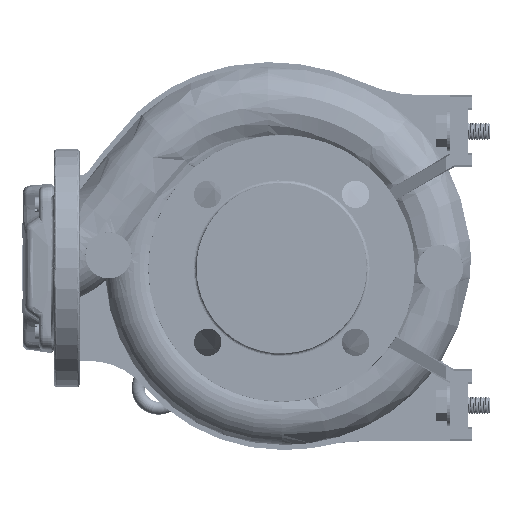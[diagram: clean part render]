
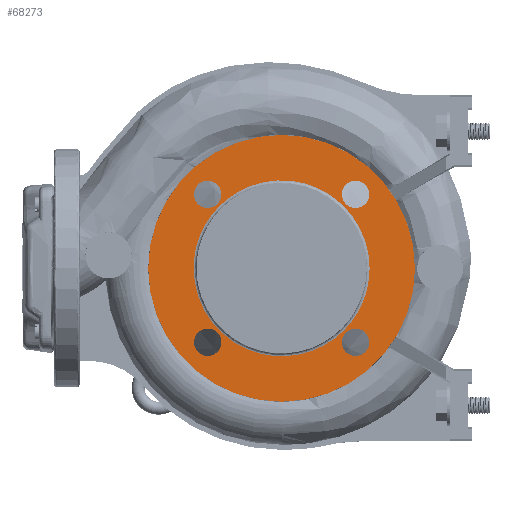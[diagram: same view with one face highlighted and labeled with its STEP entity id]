
A CAD part, left-side view. The second image highlights one B-rep face of the part: STEP entity #68273.
In plain terms, the highlighted planar face has unit normal (-1, 0, 0).
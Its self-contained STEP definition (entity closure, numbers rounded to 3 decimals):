
#2496 = CARTESIAN_POINT ( 'NONE',  ( -133.206, 123.021, 236.763 ) ) ;
#2842 = DIRECTION ( 'NONE',  ( -1., 0., 0. ) ) ;
#3139 = EDGE_LOOP ( 'NONE', ( #177205, #88206 ) ) ;
#5525 = DIRECTION ( 'NONE',  ( -1., 0., 0. ) ) ;
#6560 = FACE_BOUND ( 'NONE', #117027, .T. ) ;
#8593 = PLANE ( 'NONE',  #142593 ) ;
#10340 = VERTEX_POINT ( 'NONE', #167781 ) ;
#10578 = DIRECTION ( 'NONE',  ( -1., 0., 0. ) ) ;
#13850 = VERTEX_POINT ( 'NONE', #158076 ) ;
#14734 = AXIS2_PLACEMENT_3D ( 'NONE', #136018, #10578, #26024 ) ;
#15720 = EDGE_CURVE ( 'NONE', #10340, #158003, #109841, .T. ) ;
#17255 = ORIENTED_EDGE ( 'NONE', *, *, #179044, .F. ) ;
#17267 = CARTESIAN_POINT ( 'NONE',  ( -133.206, 235.286, 288.028 ) ) ;
#17286 = VERTEX_POINT ( 'NONE', #98213 ) ;
#22981 = DIRECTION ( 'NONE',  ( 0., 0., 1. ) ) ;
#24028 = FACE_BOUND ( 'NONE', #114089, .T. ) ;
#24939 = AXIS2_PLACEMENT_3D ( 'NONE', #162968, #38568, #48138 ) ;
#25470 = ORIENTED_EDGE ( 'NONE', *, *, #27018, .F. ) ;
#25956 = CARTESIAN_POINT ( 'NONE',  ( -133.206, 235.286, 194.997 ) ) ;
#26024 = DIRECTION ( 'NONE',  ( 0., 0., 1. ) ) ;
#27018 = EDGE_CURVE ( 'NONE', #13850, #85910, #60022, .T. ) ;
#29127 = CARTESIAN_POINT ( 'NONE',  ( -133.206, 132.756, 185.497 ) ) ;
#29912 = CARTESIAN_POINT ( 'NONE',  ( -133.206, 235.286, 278.528 ) ) ;
#32158 = EDGE_CURVE ( 'NONE', #189743, #115245, #88652, .T. ) ;
#33346 = CARTESIAN_POINT ( 'NONE',  ( -133.206, 245.021, 358.763 ) ) ;
#33458 = CIRCLE ( 'NONE', #148385, 9.5 ) ;
#33974 = CARTESIAN_POINT ( 'NONE',  ( -133.206, 132.756, 175.997 ) ) ;
#34127 = EDGE_CURVE ( 'NONE', #158003, #10340, #66054, .T. ) ;
#35071 = CARTESIAN_POINT ( 'NONE',  ( -133.206, 235.286, 175.997 ) ) ;
#35812 = CIRCLE ( 'NONE', #134312, 9.5 ) ;
#38568 = DIRECTION ( 'NONE',  ( -1., 0., 0. ) ) ;
#42074 = EDGE_CURVE ( 'NONE', #85910, #13850, #68557, .T. ) ;
#44494 = CARTESIAN_POINT ( 'NONE',  ( -133.206, 132.756, 297.528 ) ) ;
#45018 = DIRECTION ( 'NONE',  ( -1., 0., 0. ) ) ;
#45684 =( BOUNDED_CURVE ( )  B_SPLINE_CURVE ( 3, ( #166992, #137159, #72467, #103309 ),
 .UNSPECIFIED., .F., .F. ) 
 B_SPLINE_CURVE_WITH_KNOTS ( ( 4, 4 ),
 ( 0., 1. ),
 .UNSPECIFIED. ) 
 CURVE ( )  GEOMETRIC_REPRESENTATION_ITEM ( )  RATIONAL_B_SPLINE_CURVE ( ( 0.957, 0.319, 0.319, 0.957 ) ) 
 REPRESENTATION_ITEM ( '' )  );
#48138 = DIRECTION ( 'NONE',  ( 0., 0., 1. ) ) ;
#59438 = AXIS2_PLACEMENT_3D ( 'NONE', #104608, #186798, #183738 ) ;
#60022 = CIRCLE ( 'NONE', #148684, 9.5 ) ;
#61029 = CIRCLE ( 'NONE', #24939, 9.5 ) ;
#61486 = CARTESIAN_POINT ( 'NONE',  ( -133.206, 235.286, 185.497 ) ) ;
#66054 = CIRCLE ( 'NONE', #59438, 92.5 ) ;
#66342 = AXIS2_PLACEMENT_3D ( 'NONE', #17267, #2842, #172520 ) ;
#68273 = ADVANCED_FACE ( 'NONE', ( #70322, #6560, #106941, #24028, #86735, #179298 ), #8593, .F. ) ;
#68557 = CIRCLE ( 'NONE', #101415, 9.5 ) ;
#69291 = DIRECTION ( 'NONE',  ( 1., 0., 0. ) ) ;
#70322 = FACE_BOUND ( 'NONE', #3139, .T. ) ;
#70352 = ORIENTED_EDGE ( 'NONE', *, *, #15720, .T. ) ;
#71111 = CARTESIAN_POINT ( 'NONE',  ( -133.206, 132.756, 288.028 ) ) ;
#71503 = CIRCLE ( 'NONE', #127245, 9.5 ) ;
#72467 = CARTESIAN_POINT ( 'NONE',  ( -133.206, 123.021, 114.763 ) ) ;
#74382 = VERTEX_POINT ( 'NONE', #29912 ) ;
#78885 = EDGE_LOOP ( 'NONE', ( #127669, #176741 ) ) ;
#81604 = CARTESIAN_POINT ( 'NONE',  ( -133.206, 132.756, 288.028 ) ) ;
#85910 = VERTEX_POINT ( 'NONE', #33974 ) ;
#86735 = FACE_BOUND ( 'NONE', #78885, .T. ) ;
#88206 = ORIENTED_EDGE ( 'NONE', *, *, #179741, .F. ) ;
#88652 = CIRCLE ( 'NONE', #111681, 9.5 ) ;
#88730 = DIRECTION ( 'NONE',  ( -1., 0., 0. ) ) ;
#90622 = CARTESIAN_POINT ( 'NONE',  ( -133.206, 184.021, 329.263 ) ) ;
#91816 = DIRECTION ( 'NONE',  ( -1., 0., 0. ) ) ;
#93036 = CARTESIAN_POINT ( 'NONE',  ( -133.206, 123.021, 236.763 ) ) ;
#98213 = CARTESIAN_POINT ( 'NONE',  ( -133.206, 235.286, 297.528 ) ) ;
#100157 = ORIENTED_EDGE ( 'NONE', *, *, #42074, .F. ) ;
#101097 = CARTESIAN_POINT ( 'NONE',  ( -133.206, 132.756, 185.497 ) ) ;
#101110 = EDGE_CURVE ( 'NONE', #115245, #189743, #61029, .T. ) ;
#101415 = AXIS2_PLACEMENT_3D ( 'NONE', #101097, #163799, #22981 ) ;
#103309 = CARTESIAN_POINT ( 'NONE',  ( -133.206, 123.021, 236.763 ) ) ;
#104608 = CARTESIAN_POINT ( 'NONE',  ( -133.206, 184.021, 236.763 ) ) ;
#106941 = FACE_BOUND ( 'NONE', #142272, .T. ) ;
#108944 = VERTEX_POINT ( 'NONE', #44494 ) ;
#109841 = CIRCLE ( 'NONE', #14734, 92.5 ) ;
#111681 = AXIS2_PLACEMENT_3D ( 'NONE', #61486, #45018, #168392 ) ;
#114089 = EDGE_LOOP ( 'NONE', ( #25470, #100157 ) ) ;
#115202 = VERTEX_POINT ( 'NONE', #164754 ) ;
#115245 = VERTEX_POINT ( 'NONE', #25956 ) ;
#117027 = EDGE_LOOP ( 'NONE', ( #17255, #180836 ) ) ;
#118605 = DIRECTION ( 'NONE',  ( 0., 1., 0. ) ) ;
#124913 = CARTESIAN_POINT ( 'NONE',  ( -133.206, 245.021, 236.763 ) ) ;
#127245 = AXIS2_PLACEMENT_3D ( 'NONE', #71111, #198539, #136815 ) ;
#127669 = ORIENTED_EDGE ( 'NONE', *, *, #129841, .F. ) ;
#129841 = EDGE_CURVE ( 'NONE', #108944, #149354, #35812, .T. ) ;
#134016 = CARTESIAN_POINT ( 'NONE',  ( -133.206, 90.411, 143.153 ) ) ;
#134312 = AXIS2_PLACEMENT_3D ( 'NONE', #81604, #5525, #174132 ) ;
#135332 = CIRCLE ( 'NONE', #66342, 9.5 ) ;
#136018 = CARTESIAN_POINT ( 'NONE',  ( -133.206, 184.021, 236.763 ) ) ;
#136815 = DIRECTION ( 'NONE',  ( 0., 0., 1. ) ) ;
#137159 = CARTESIAN_POINT ( 'NONE',  ( -133.206, 245.021, 114.763 ) ) ;
#142272 = EDGE_LOOP ( 'NONE', ( #160638, #187657 ) ) ;
#142317 = CARTESIAN_POINT ( 'NONE',  ( -133.206, 132.756, 278.528 ) ) ;
#142593 = AXIS2_PLACEMENT_3D ( 'NONE', #134016, #69291, #118605 ) ;
#143356 = CARTESIAN_POINT ( 'NONE',  ( -133.206, 123.021, 358.763 ) ) ;
#148385 = AXIS2_PLACEMENT_3D ( 'NONE', #165871, #88730, #179296 ) ;
#148684 = AXIS2_PLACEMENT_3D ( 'NONE', #29127, #91816, #166931 ) ;
#149354 = VERTEX_POINT ( 'NONE', #142317 ) ;
#158003 = VERTEX_POINT ( 'NONE', #90622 ) ;
#158076 = CARTESIAN_POINT ( 'NONE',  ( -133.206, 132.756, 194.997 ) ) ;
#160638 = ORIENTED_EDGE ( 'NONE', *, *, #101110, .F. ) ;
#162968 = CARTESIAN_POINT ( 'NONE',  ( -133.206, 235.286, 185.497 ) ) ;
#163799 = DIRECTION ( 'NONE',  ( -1., 0., 0. ) ) ;
#164754 = CARTESIAN_POINT ( 'NONE',  ( -133.206, 245.021, 236.763 ) ) ;
#165871 = CARTESIAN_POINT ( 'NONE',  ( -133.206, 235.286, 288.028 ) ) ;
#166931 = DIRECTION ( 'NONE',  ( 0., 0., 1. ) ) ;
#166992 = CARTESIAN_POINT ( 'NONE',  ( -133.206, 245.021, 236.763 ) ) ;
#167375 = ORIENTED_EDGE ( 'NONE', *, *, #34127, .T. ) ;
#167781 = CARTESIAN_POINT ( 'NONE',  ( -133.206, 184.021, 144.263 ) ) ;
#168392 = DIRECTION ( 'NONE',  ( 0., 0., 1. ) ) ;
#169882 = EDGE_CURVE ( 'NONE', #115202, #181600, #45684, .T. ) ;
#172520 = DIRECTION ( 'NONE',  ( 0., 0., 1. ) ) ;
#174132 = DIRECTION ( 'NONE',  ( 0., 0., 1. ) ) ;
#176741 = ORIENTED_EDGE ( 'NONE', *, *, #198070, .F. ) ;
#177205 = ORIENTED_EDGE ( 'NONE', *, *, #169882, .F. ) ;
#178064 =( BOUNDED_CURVE ( )  B_SPLINE_CURVE ( 3, ( #2496, #143356, #33346, #124913 ),
 .UNSPECIFIED., .F., .F. ) 
 B_SPLINE_CURVE_WITH_KNOTS ( ( 4, 4 ),
 ( 0., 1. ),
 .UNSPECIFIED. ) 
 CURVE ( )  GEOMETRIC_REPRESENTATION_ITEM ( )  RATIONAL_B_SPLINE_CURVE ( ( 0.957, 0.319, 0.319, 0.957 ) ) 
 REPRESENTATION_ITEM ( '' )  );
#178642 = EDGE_CURVE ( 'NONE', #74382, #17286, #135332, .T. ) ;
#179044 = EDGE_CURVE ( 'NONE', #17286, #74382, #33458, .T. ) ;
#179296 = DIRECTION ( 'NONE',  ( 0., 0., 1. ) ) ;
#179298 = FACE_OUTER_BOUND ( 'NONE', #192543, .T. ) ;
#179741 = EDGE_CURVE ( 'NONE', #181600, #115202, #178064, .T. ) ;
#180836 = ORIENTED_EDGE ( 'NONE', *, *, #178642, .F. ) ;
#181600 = VERTEX_POINT ( 'NONE', #93036 ) ;
#183738 = DIRECTION ( 'NONE',  ( 0., 0., 1. ) ) ;
#186798 = DIRECTION ( 'NONE',  ( -1., 0., 0. ) ) ;
#187657 = ORIENTED_EDGE ( 'NONE', *, *, #32158, .F. ) ;
#189743 = VERTEX_POINT ( 'NONE', #35071 ) ;
#192543 = EDGE_LOOP ( 'NONE', ( #167375, #70352 ) ) ;
#198070 = EDGE_CURVE ( 'NONE', #149354, #108944, #71503, .T. ) ;
#198539 = DIRECTION ( 'NONE',  ( -1., 0., 0. ) ) ;
